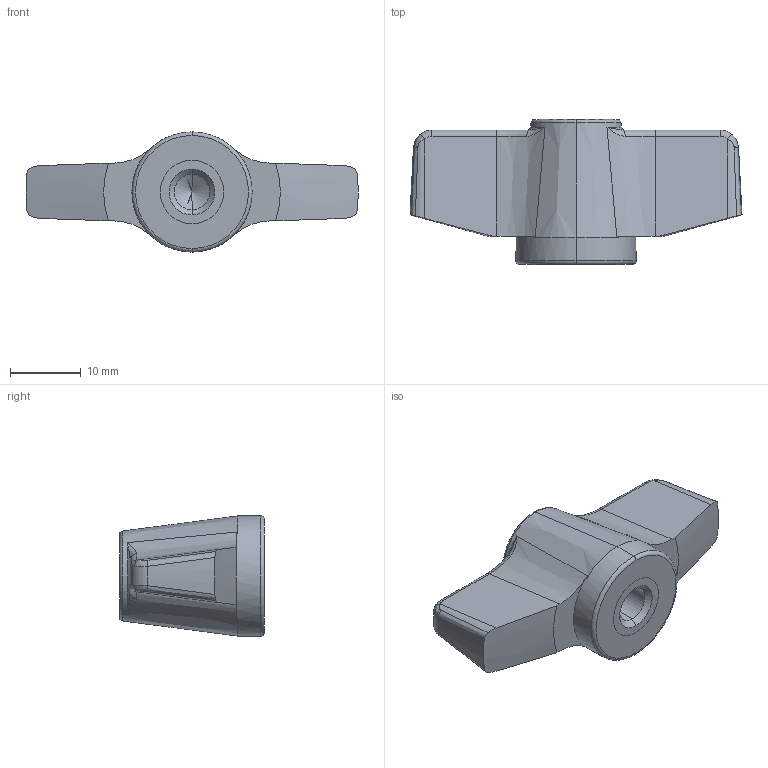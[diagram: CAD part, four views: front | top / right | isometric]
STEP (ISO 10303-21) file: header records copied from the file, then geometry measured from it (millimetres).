
FILE_DESCRIPTION (( 'STEP AP203' ), '1' );
FILE_NAME ('wn715-3_e_m6.step', '2007-01-19T12:37:40', ( 'Magnus Fahlstrom' ), ( '' ), 'SwSTEP 2.0', 'SolidWorks 2007', '' );
FILE_SCHEMA (( 'CONFIG_CONTROL_DESIGN' ));
Length unit declared in the file: millimetre
Products named in the file (1): wn715-3_e_m6
Bounding box: 46.97 x 20.5 x 17 mm (x, y, z)
Volume: 6191.5 mm3; surface area: 2731.3 mm2
Topology: 1 solids, 1 shells, 70 faces, 168 edges, 97 vertices
Faces by surface type: cone 18, bspline 16, cylinder 12, torus 12, plane 12
Entity records: 2479 total; most frequent: CARTESIAN_POINT 914, ORIENTED_EDGE 324, DIRECTION 300, EDGE_CURVE 162, AXIS2_PLACEMENT_3D 131, VERTEX_POINT 97, CIRCLE 76, EDGE_LOOP 73
